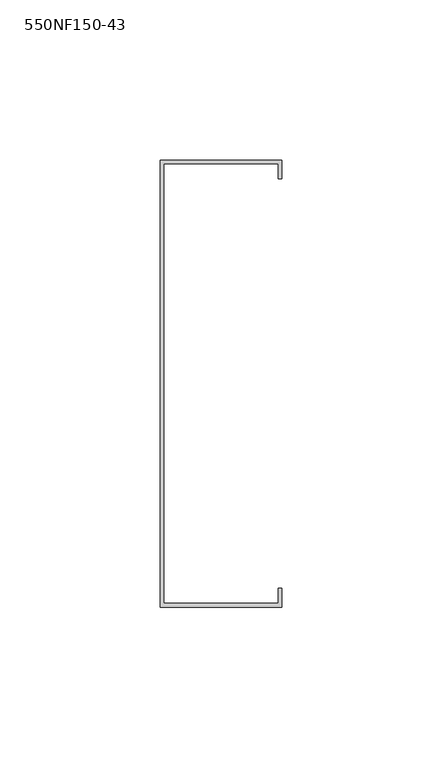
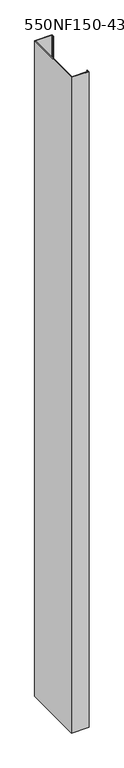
"""IFC4 building model written with IfcOpenShell, lengths in millimetres: column geometry, BIMSF-SSMA-S-Column : 550NF150-43."""

from ifc_helpers import new_model, si_unit, frame, origin, place, context, project, spatial, polyline, outline, extrude, source, transform, mapped, element, save


def column_550nf150_43_1ca68b22(model_context):
    return source(origin(), model_context, "Body", "SweptSolid", [
        extrude(outline(polyline([(-11.9977877, -80.5871249), (-11.9977877, 59.1128751), (26.1022123, 59.1128751), (26.1022123, 53.1879908), (24.952528, 53.1879908), (24.952528, 57.9631908), (-10.8481035, 57.9631908), (-10.8481035, -79.4374407), (24.952528, -79.4374407), (24.952528, -74.6622407), (26.1022123, -74.6622407), (26.1022123, -80.5871249), (-11.9977877, -80.5871249)])), frame((0.0, 0.0, 5525.3929688), z_axis=(0.0, 0.0, 1.0), x_axis=(1.0, 0.0, 0.0)), (0.0, 0.0, 1.0), 1514.2427909),
    ])


if __name__ == "__main__":
    model = new_model("IFC4")
    model_context = context("Model", 3, world=origin())
    ifc_project = project(units=[si_unit("LENGTHUNIT", "METRE", prefix="MILLI")], contexts=[model_context])
    site = spatial("IfcSite", under=ifc_project)
    building = spatial("IfcBuilding", under=site)
    placement = place(None, origin())
    column_550nf150_43_shape = column_550nf150_43_1ca68b22(model_context)
    element("IfcColumn", 1, ObjectType="BIMSF-SSMA-S-Column : 550NF150-43", at=placement, inside=building, context=model_context, shape_type="MappedRepresentation", body=[
        mapped(column_550nf150_43_shape, transform((0.0, 0.0, 0.0), x_axis=(1.0, 0.0, 0.0), y_axis=(0.0, 1.0, 0.0), z_axis=(0.0, 0.0, 1.0))),
    ])
    save(model, "model.ifc")
